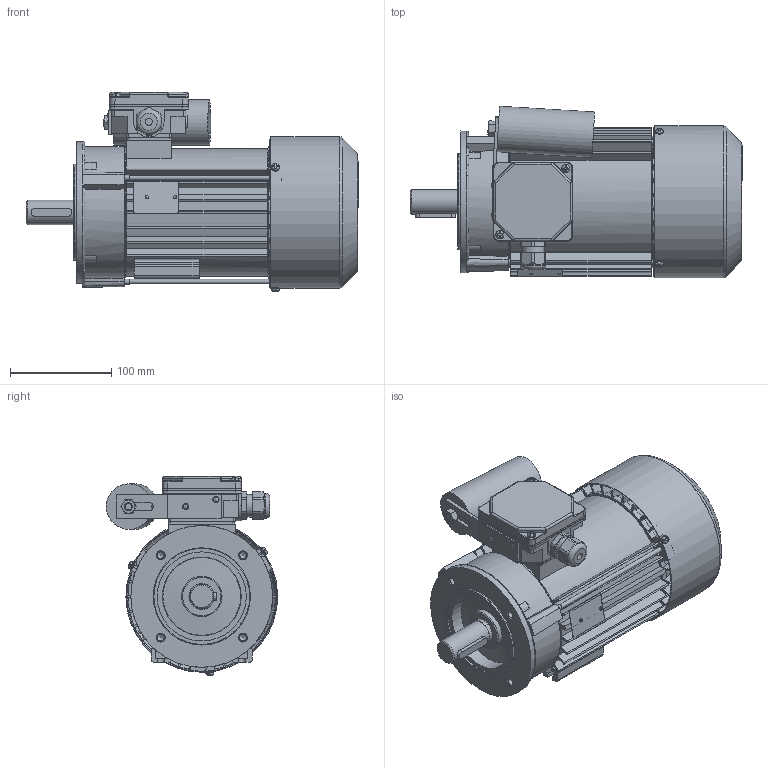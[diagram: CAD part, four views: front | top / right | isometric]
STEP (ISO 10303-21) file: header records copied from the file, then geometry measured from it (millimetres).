
FILE_DESCRIPTION( ( 'Unknown' ), '1' );
FILE_NAME( 'G:/Poczta Tk-1/STP/w.m.90/SEh90/SEKh90-.L2.stp', 'Unknown', ( 'K. Szlosek' ), ( 'BESEL S.A.' ), 'PSStep 17.0.49', 'Unknown', ' ' );
FILE_SCHEMA( ( 'AUTOMOTIVE_DESIGN { 1 0 10303 214 1 1 1 1 }' ) );
Length unit declared in the file: millimetre
Products named in the file (37): skrznka zaciskowa jednofazowa ; K4-2820 Uszczelka nr 2 Sh71,80; K2-1131 Podstawa skrzynki zaciskowej jednofazowa; K4-2999 Uchwyt kondensatora; Nit 4x12 po skróceniu; nakrętka M8; K4-0898 Tulejka uszczelniająca; Dławnica M20x1,5; K2-0860 Pokrywka skrzynki zaciskowej; Assem1; K1-1257 Kadłub S(E,M)h80-C i D; K3-7810 wał S(E,M)h90-.L; K2-1715 Przewietrznik; Wpust A8x7x40; K3-2964 Osłona przewietrznika Sh80,90; K4-2320 Uszczelka nr 1 Sh71,80; K3-7771 Tarcza łożyskowa P S(E,M)h90-L tymczasowy; Wkręt samogwintujący M4x8; Nitokołek A 2x6; Łożysko 6205; Pierścień osadczy sprężyn. Z25; Tabliczka znamionowa 32x44; Śruba ściągająca E_M5x168; Kondensator zb 25-31,5uF Comar; Wkręt samogwintujący M4x12; K3-7773 Tarcza kołnierzowa B14_2 SKh90-..2
Assembly tree (55 placements, depth 3):
  Assem1
    K1-1257 Kadłub S(E,M)h80-C i D
    K3-7810 wał S(E,M)h90-.L
    K2-1715 Przewietrznik
    Wpust A8x7x40
    K3-2964 Osłona przewietrznika Sh80,90
    K4-2320 Uszczelka nr 1 Sh71,80
    K3-7771 Tarcza łożyskowa P S(E,M)h90-L tymczasowy
    Wkręt samogwintujący M4x8  x3
    Nitokołek A 2x6  x2
    Łożysko 6205  x2
    Łożysko 6205  x2
    Łożysko 6205  x2
    Łożysko 6205  x2
    Łożysko 6205  x2
    Łożysko 6205  x2
    Łożysko 6205  x2
    Łożysko 6205  x2
    Łożysko 6205  x2
    Łożysko 6205  x2
    Łożysko 6205  x2
    Łożysko 6205  x2
    Pierścień osadczy sprężyn. Z25
    Tabliczka znamionowa 32x44
    Śruba ściągająca E_M5x168  x3
    Kondensator zb 25-31,5uF Comar
    Wkręt samogwintujący M4x12  x2
    K3-7773 Tarcza kołnierzowa B14_2 SKh90-..2
    skrznka zaciskowa jednofazowa 
      K4-2820 Uszczelka nr 2 Sh71,80
      K2-1131 Podstawa skrzynki zaciskowej jednofazowa
      K4-2999 Uchwyt kondensatora
      Nit 4x12 po skróceniu  x2
      nakrętka M8
      K4-0898 Tulejka uszczelniająca
      Dławnica M20x1,5
      K2-0860 Pokrywka skrzynki zaciskowej
Bounding box: 327.8 x 169.24 x 196.68 mm (x, y, z)
Volume: 1139214 mm3; surface area: 632873.7 mm2
Topology: 54 solids, 74 shells, 2766 faces, 7626 edges, 4948 vertices
Faces by surface type: plane 1313, cylinder 808, torus 209, cone 195, bspline 195, sphere 46
Full cylindrical faces by diameter (mm): 2 x4, 2.4 x2, 3 x1, 3.7 x11, 4 x8, 4.2 x3, 4.3 x2, 4.5 x3, 4.6 x3, 4.8 x4, 5 x7, 5.5 x3, 6 x2, 6.5 x1, 6.647 x1, 6.8 x4, 7 x1, 8 x10, 10 x2, 18.376 x1, 18.38 x1, 19.3 x1, 19.5 x1, 19.9 x1, 20 x1, 22.3 x1, 23.9 x1, 24 x1, 25 x5, 25.4 x2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
Entity records: 146756 total; most frequent: CARTESIAN_POINT 67290, ORIENTED_EDGE 13676, DIRECTION 12741, EDGE_CURVE 6838, AXIS2_PLACEMENT_3D 4771, VERTEX_POINT 4598, LINE 3199, VECTOR 3199
